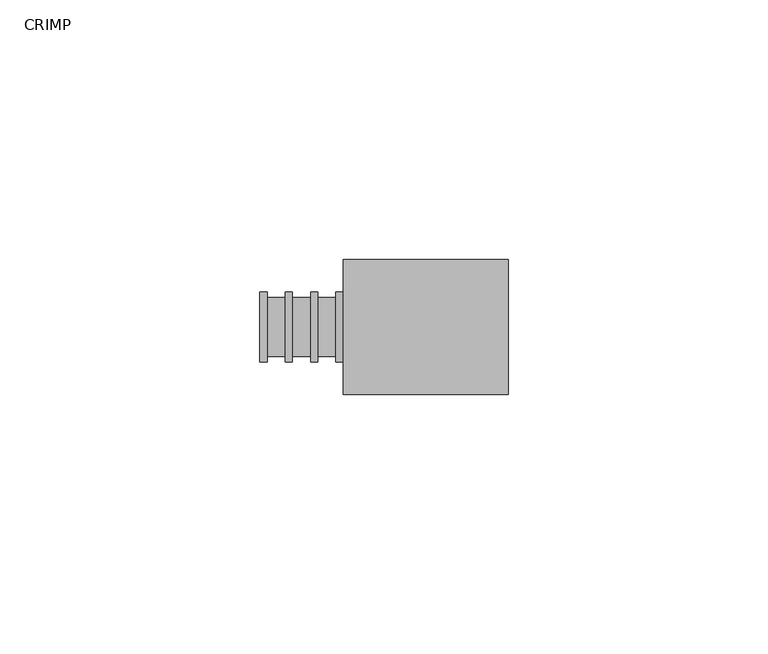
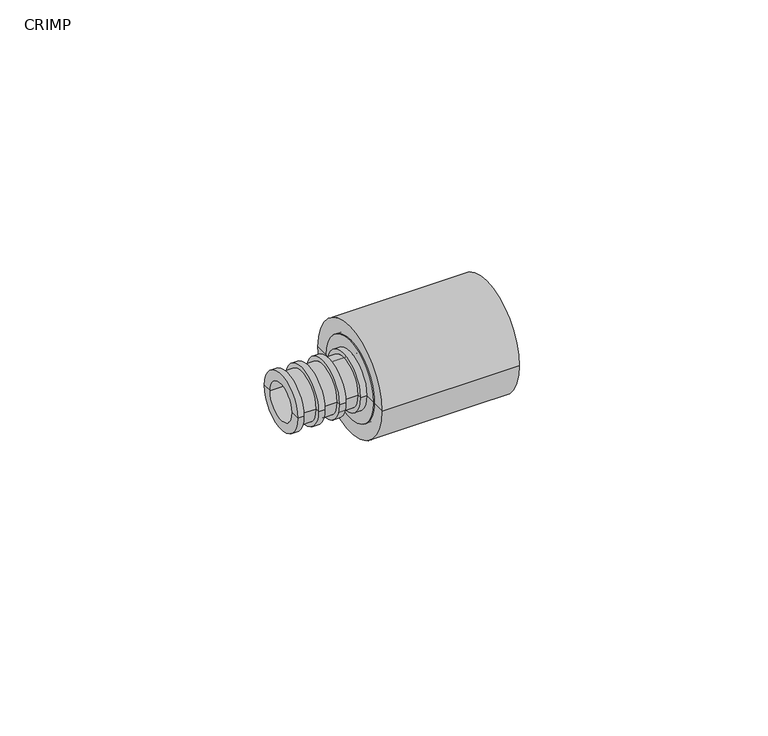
"""IFC4 building model written with IfcOpenShell, lengths in millimetres: valve geometry, Aquatherm - PEX Adapter Crimp : CRIMP."""

from ifc_helpers import new_model, si_unit, frame, origin, place, context, project, spatial, polyline, circle_curve, source, transform, mapped, element, save
from ifc_brep_helpers import plane_surface, cylinder_surface, revolved_surface, advanced_brep


def crimp_57a071e0(model_context):
    return source(origin(), model_context, "Body", "AdvancedBrep", [
        advanced_brep(
        [(3.175, -4.445, 0.0), (3.175, 4.445, 0.0), (-16.002, 4.445, 0.0), (-16.002, -4.445, 0.0), (3.175, -9.525, 0.0), (3.175, 9.525, 0.0), (-16.002, 6.731, 0.0), (-16.002, -6.731, 0.0), (-1.397, -6.731, 0.0), (-1.397, 6.731, 0.0), (0.0, 6.731, 0.0), (0.0, -6.731, 0.0), (-1.397, -5.715, 0.0), (-1.397, 5.715, 0.0), (-4.8683333, -5.715, 0.0), (-4.8683333, 5.715, 0.0), (-4.8683333, -6.731, 0.0), (-4.8683333, 6.731, 0.0), (-6.2653333, -6.731, 0.0), (-6.2653333, 6.731, 0.0), (-6.2653333, -5.715, 0.0), (-6.2653333, 5.715, 0.0), (-9.7366667, -5.715, 0.0), (-9.7366667, 5.715, 0.0), (-9.7366667, -6.731, 0.0), (-9.7366667, 6.731, 0.0), (-11.1336667, -6.731, 0.0), (-11.1336667, 6.731, 0.0), (-11.1336667, -5.715, 0.0), (-11.1336667, 5.715, 0.0), (-14.605, -5.715, 0.0), (-14.605, 5.715, 0.0), (-14.605, -6.731, 0.0), (-14.605, 6.731, 0.0), (0.0, -9.525, 0.0), (0.0, 9.525, 0.0)],
        [
            (0, 1, circle_curve(frame((3.175, 0.0, 0.0), z_axis=(1.0, 0.0, 0.0), x_axis=(0.0, 1.0, 0.0)), 4.445)),
            (1, 2),
            (2, 3, circle_curve(frame((-16.002, 0.0, 0.0), z_axis=(-1.0, 0.0, 0.0), x_axis=(0.0, 1.0, 0.0)), 4.445)),
            (3, 0),
            (1, 0, circle_curve(frame((3.175, 0.0, 0.0), z_axis=(1.0, 0.0, 0.0), x_axis=(0.0, 1.0, 0.0)), 4.445)),
            (3, 2, circle_curve(frame((-16.002, 0.0, 0.0), z_axis=(-1.0, 0.0, 0.0), x_axis=(0.0, 1.0, 0.0)), 4.445)),
            (4, 5, circle_curve(frame((3.175, 0.0, 0.0), z_axis=(1.0, 0.0, 0.0), x_axis=(0.0, 1.0, 0.0)), 9.525)),
            (5, 1),
            (0, 4),
            (5, 4, circle_curve(frame((3.175, 0.0, 0.0), z_axis=(1.0, 0.0, 0.0), x_axis=(0.0, 1.0, 0.0)), 9.525)),
            (2, 6),
            (6, 7, circle_curve(frame((-16.002, 0.0, 0.0), z_axis=(-1.0, 0.0, 0.0), x_axis=(0.0, 1.0, 0.0)), 6.731)),
            (7, 3),
            (7, 6, circle_curve(frame((-16.002, 0.0, 0.0), z_axis=(-1.0, 0.0, 0.0), x_axis=(0.0, 1.0, 0.0)), 6.731)),
            (8, 9, circle_curve(frame((-1.397, 0.0, 0.0), z_axis=(1.0, 0.0, 0.0), x_axis=(0.0, 1.0, 0.0)), 6.731)),
            (9, 10),
            (10, 11, circle_curve(frame((0.0, 0.0, 0.0), z_axis=(-1.0, 0.0, 0.0), x_axis=(0.0, 1.0, 0.0)), 6.731)),
            (11, 8),
            (9, 8, circle_curve(frame((-1.397, 0.0, 0.0), z_axis=(1.0, 0.0, 0.0), x_axis=(0.0, 1.0, 0.0)), 6.731)),
            (11, 10, circle_curve(frame((0.0, 0.0, 0.0), z_axis=(-1.0, 0.0, 0.0), x_axis=(0.0, 1.0, 0.0)), 6.731)),
            (12, 13, circle_curve(frame((-1.397, 0.0, 0.0), z_axis=(1.0, 0.0, 0.0), x_axis=(0.0, 1.0, 0.0)), 5.715)),
            (13, 9),
            (8, 12),
            (13, 12, circle_curve(frame((-1.397, 0.0, 0.0), z_axis=(1.0, 0.0, 0.0), x_axis=(0.0, 1.0, 0.0)), 5.715)),
            (14, 15, circle_curve(frame((-4.8683333, 0.0, 0.0), z_axis=(1.0, 0.0, 0.0), x_axis=(0.0, 1.0, 0.0)), 5.715)),
            (15, 13),
            (12, 14),
            (15, 14, circle_curve(frame((-4.8683333, 0.0, 0.0), z_axis=(1.0, 0.0, 0.0), x_axis=(0.0, 1.0, 0.0)), 5.715)),
            (16, 17, circle_curve(frame((-4.8683333, 0.0, 0.0), z_axis=(1.0, 0.0, 0.0), x_axis=(0.0, 1.0, 0.0)), 6.731)),
            (17, 15),
            (14, 16),
            (17, 16, circle_curve(frame((-4.8683333, 0.0, 0.0), z_axis=(1.0, 0.0, 0.0), x_axis=(0.0, 1.0, 0.0)), 6.731)),
            (18, 19, circle_curve(frame((-6.2653333, 0.0, 0.0), z_axis=(1.0, 0.0, 0.0), x_axis=(0.0, 1.0, 0.0)), 6.731)),
            (19, 17),
            (16, 18),
            (19, 18, circle_curve(frame((-6.2653333, 0.0, 0.0), z_axis=(1.0, 0.0, 0.0), x_axis=(0.0, 1.0, 0.0)), 6.731)),
            (20, 21, circle_curve(frame((-6.2653333, 0.0, 0.0), z_axis=(1.0, 0.0, 0.0), x_axis=(0.0, 1.0, 0.0)), 5.715)),
            (21, 19),
            (18, 20),
            (21, 20, circle_curve(frame((-6.2653333, 0.0, 0.0), z_axis=(1.0, 0.0, 0.0), x_axis=(0.0, 1.0, 0.0)), 5.715)),
            (22, 23, circle_curve(frame((-9.7366667, 0.0, 0.0), z_axis=(1.0, 0.0, 0.0), x_axis=(0.0, 1.0, 0.0)), 5.715)),
            (23, 21),
            (20, 22),
            (23, 22, circle_curve(frame((-9.7366667, 0.0, 0.0), z_axis=(1.0, 0.0, 0.0), x_axis=(0.0, 1.0, 0.0)), 5.715)),
            (24, 25, circle_curve(frame((-9.7366667, 0.0, 0.0), z_axis=(1.0, 0.0, 0.0), x_axis=(0.0, 1.0, 0.0)), 6.731)),
            (25, 23),
            (22, 24),
            (25, 24, circle_curve(frame((-9.7366667, 0.0, 0.0), z_axis=(1.0, 0.0, 0.0), x_axis=(0.0, 1.0, 0.0)), 6.731)),
            (26, 27, circle_curve(frame((-11.1336667, 0.0, 0.0), z_axis=(1.0, 0.0, 0.0), x_axis=(0.0, 1.0, 0.0)), 6.731)),
            (27, 25),
            (24, 26),
            (27, 26, circle_curve(frame((-11.1336667, 0.0, 0.0), z_axis=(1.0, 0.0, 0.0), x_axis=(0.0, 1.0, 0.0)), 6.731)),
            (28, 29, circle_curve(frame((-11.1336667, 0.0, 0.0), z_axis=(1.0, 0.0, 0.0), x_axis=(0.0, 1.0, 0.0)), 5.715)),
            (29, 27),
            (26, 28),
            (29, 28, circle_curve(frame((-11.1336667, 0.0, 0.0), z_axis=(1.0, 0.0, 0.0), x_axis=(0.0, 1.0, 0.0)), 5.715)),
            (30, 31, circle_curve(frame((-14.605, 0.0, 0.0), z_axis=(1.0, 0.0, 0.0), x_axis=(0.0, 1.0, 0.0)), 5.715)),
            (31, 29),
            (28, 30),
            (31, 30, circle_curve(frame((-14.605, 0.0, 0.0), z_axis=(1.0, 0.0, 0.0), x_axis=(0.0, 1.0, 0.0)), 5.715)),
            (32, 33, circle_curve(frame((-14.605, 0.0, 0.0), z_axis=(1.0, 0.0, 0.0), x_axis=(0.0, 1.0, 0.0)), 6.731)),
            (33, 31),
            (30, 32),
            (33, 32, circle_curve(frame((-14.605, 0.0, 0.0), z_axis=(1.0, 0.0, 0.0), x_axis=(0.0, 1.0, 0.0)), 6.731)),
            (6, 33),
            (32, 7),
            (34, 35, circle_curve(frame((0.0, 0.0, 0.0), z_axis=(1.0, 0.0, 0.0), x_axis=(0.0, 1.0, 0.0)), 9.525)),
            (35, 5),
            (4, 34),
            (35, 34, circle_curve(frame((0.0, 0.0, 0.0), z_axis=(1.0, 0.0, 0.0), x_axis=(0.0, 1.0, 0.0)), 9.525)),
            (10, 35),
            (34, 11),
        ],
        [
            revolved_surface(polyline([(-16.002, 4.445, 0.0), (3.1750000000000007, 4.445, 0.0)]), (-27.559, 0.0, 0.0), (-1.0, 0.0, 0.0)),
            plane_surface(frame((3.175, 0.0, 0.0), z_axis=(1.0, 0.0, 0.0), x_axis=(0.0, 1.0, 0.0))),
            plane_surface(frame((-16.002, 0.0, 0.0), z_axis=(-1.0, 0.0, 0.0), x_axis=(0.0, 1.0, 0.0))),
            cylinder_surface(frame((-27.559, 0.0, 0.0), z_axis=(-1.0, 0.0, 0.0), x_axis=(0.0, 1.0, 0.0)), 6.731),
            plane_surface(frame((-1.397, 0.0, 0.0), z_axis=(-1.0, 0.0, 0.0), x_axis=(0.0, 1.0, 0.0))),
            cylinder_surface(frame((-27.559, 0.0, 0.0), z_axis=(-1.0, 0.0, 0.0), x_axis=(0.0, 1.0, 0.0)), 5.715),
            plane_surface(frame((-4.8683333, 0.0, 0.0), z_axis=(1.0, 0.0, 0.0), x_axis=(0.0, 1.0, 0.0))),
            plane_surface(frame((-6.2653333, 0.0, 0.0), z_axis=(-1.0, 0.0, 0.0), x_axis=(0.0, 1.0, 0.0))),
            plane_surface(frame((-9.7366667, 0.0, 0.0), z_axis=(1.0, 0.0, 0.0), x_axis=(0.0, 1.0, 0.0))),
            plane_surface(frame((-11.1336667, 0.0, 0.0), z_axis=(-1.0, 0.0, 0.0), x_axis=(0.0, 1.0, 0.0))),
            plane_surface(frame((-14.605, 0.0, 0.0), z_axis=(1.0, 0.0, 0.0), x_axis=(0.0, 1.0, 0.0))),
            cylinder_surface(frame((-27.559, 0.0, 0.0), z_axis=(-1.0, 0.0, 0.0), x_axis=(0.0, 1.0, 0.0)), 9.525),
            plane_surface(frame((0.0, 0.0, 0.0), z_axis=(-1.0, 0.0, 0.0), x_axis=(0.0, 1.0, 0.0))),
        ],
        [
            (0, [[1, 2, 3, 4]]),
            (0, [[5, -4, 6, -2]]),
            (1, [[7, 8, -1, 9]]),
            (1, [[10, -9, -5, -8]]),
            (2, [[-3, 11, 12, 13]]),
            (2, [[-6, -13, 14, -11]]),
            (3, [[15, 16, 17, 18]]),
            (3, [[19, -18, 20, -16]]),
            (4, [[21, 22, -15, 23]]),
            (4, [[24, -23, -19, -22]]),
            (5, [[25, 26, -21, 27]]),
            (5, [[28, -27, -24, -26]]),
            (6, [[29, 30, -25, 31]]),
            (6, [[32, -31, -28, -30]]),
            (3, [[33, 34, -29, 35]]),
            (3, [[36, -35, -32, -34]]),
            (7, [[37, 38, -33, 39]]),
            (7, [[40, -39, -36, -38]]),
            (5, [[41, 42, -37, 43]]),
            (5, [[44, -43, -40, -42]]),
            (8, [[45, 46, -41, 47]]),
            (8, [[48, -47, -44, -46]]),
            (3, [[49, 50, -45, 51]]),
            (3, [[52, -51, -48, -50]]),
            (9, [[53, 54, -49, 55]]),
            (9, [[56, -55, -52, -54]]),
            (5, [[57, 58, -53, 59]]),
            (5, [[60, -59, -56, -58]]),
            (10, [[61, 62, -57, 63]]),
            (10, [[64, -63, -60, -62]]),
            (3, [[-12, 65, -61, 66]]),
            (3, [[-14, -66, -64, -65]]),
            (11, [[67, 68, -7, 69]]),
            (11, [[70, -69, -10, -68]]),
            (12, [[-17, 71, -67, 72]]),
            (12, [[-20, -72, -70, -71]]),
        ],
    ),
        advanced_brep(
        [(0.0, -12.954, 0.0), (0.0, 12.954, 0.0), (31.75, 12.954, 0.0), (31.75, -12.954, 0.0), (0.0, -9.525, 0.0), (0.0, 9.525, 0.0), (3.175, -9.525, 0.0), (3.175, 9.525, 0.0), (3.175, -4.445, 0.0), (3.175, 4.445, 0.0), (31.75, -9.525, 0.0), (31.75, 9.525, 0.0), (15.748, 9.525, 0.0), (15.748, -9.525, 0.0), (15.748, -4.445, 0.0), (15.748, 4.445, 0.0)],
        [
            (0, 1, circle_curve(frame((0.0, 0.0, 0.0), z_axis=(1.0, 0.0, 0.0), x_axis=(0.0, 1.0, 0.0)), 12.954)),
            (1, 2),
            (2, 3, circle_curve(frame((31.75, 0.0, 0.0), z_axis=(-1.0, 0.0, 0.0), x_axis=(0.0, 1.0, 0.0)), 12.954)),
            (3, 0),
            (1, 0, circle_curve(frame((0.0, 0.0, 0.0), z_axis=(1.0, 0.0, 0.0), x_axis=(0.0, 1.0, 0.0)), 12.954)),
            (3, 2, circle_curve(frame((31.75, 0.0, 0.0), z_axis=(-1.0, 0.0, 0.0), x_axis=(0.0, 1.0, 0.0)), 12.954)),
            (4, 5, circle_curve(frame((0.0, 0.0, 0.0), z_axis=(1.0, 0.0, 0.0), x_axis=(0.0, 1.0, 0.0)), 9.525)),
            (5, 1),
            (0, 4),
            (5, 4, circle_curve(frame((0.0, 0.0, 0.0), z_axis=(1.0, 0.0, 0.0), x_axis=(0.0, 1.0, 0.0)), 9.525)),
            (6, 7, circle_curve(frame((3.175, 0.0, 0.0), z_axis=(1.0, 0.0, 0.0), x_axis=(0.0, 1.0, 0.0)), 9.525)),
            (7, 5),
            (4, 6),
            (7, 6, circle_curve(frame((3.175, 0.0, 0.0), z_axis=(1.0, 0.0, 0.0), x_axis=(0.0, 1.0, 0.0)), 9.525)),
            (8, 9, circle_curve(frame((3.175, 0.0, 0.0), z_axis=(1.0, 0.0, 0.0), x_axis=(0.0, 1.0, 0.0)), 4.445)),
            (9, 7),
            (6, 8),
            (9, 8, circle_curve(frame((3.175, 0.0, 0.0), z_axis=(1.0, 0.0, 0.0), x_axis=(0.0, 1.0, 0.0)), 4.445)),
            (10, 11, circle_curve(frame((31.75, 0.0, 0.0), z_axis=(1.0, 0.0, 0.0), x_axis=(0.0, 1.0, 0.0)), 9.525)),
            (11, 12),
            (12, 13, circle_curve(frame((15.748, 0.0, 0.0), z_axis=(-1.0, 0.0, 0.0), x_axis=(0.0, 1.0, 0.0)), 9.525)),
            (13, 10),
            (11, 10, circle_curve(frame((31.75, 0.0, 0.0), z_axis=(1.0, 0.0, 0.0), x_axis=(0.0, 1.0, 0.0)), 9.525)),
            (13, 12, circle_curve(frame((15.748, 0.0, 0.0), z_axis=(-1.0, 0.0, 0.0), x_axis=(0.0, 1.0, 0.0)), 9.525)),
            (2, 11),
            (10, 3),
            (14, 15, circle_curve(frame((15.748, 0.0, 0.0), z_axis=(1.0, 0.0, 0.0), x_axis=(0.0, 1.0, 0.0)), 4.445)),
            (15, 9),
            (8, 14),
            (15, 14, circle_curve(frame((15.748, 0.0, 0.0), z_axis=(1.0, 0.0, 0.0), x_axis=(0.0, 1.0, 0.0)), 4.445)),
            (12, 15),
            (14, 13),
        ],
        [
            cylinder_surface(frame((-41.402, 0.0, 0.0), z_axis=(-1.0, 0.0, 0.0), x_axis=(0.0, 1.0, 0.0)), 12.954),
            plane_surface(frame((0.0, 0.0, 0.0), z_axis=(-1.0, 0.0, 0.0), x_axis=(0.0, 1.0, 0.0))),
            revolved_surface(polyline([(0.0, 9.525, 0.0), (3.174999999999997, 9.525, 0.0)]), (-41.402, 0.0, 0.0), (-1.0, 0.0, 0.0)),
            plane_surface(frame((3.175, 0.0, 0.0), z_axis=(-1.0, 0.0, 0.0), x_axis=(0.0, 1.0, 0.0))),
            revolved_surface(polyline([(15.747999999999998, 9.525, 0.0), (31.75, 9.525, 0.0)]), (-41.402, 0.0, 0.0), (-1.0, 0.0, 0.0)),
            plane_surface(frame((31.75, 0.0, 0.0), z_axis=(1.0, 0.0, 0.0), x_axis=(0.0, 1.0, 0.0))),
            revolved_surface(polyline([(3.174999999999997, 4.445, 0.0), (15.747999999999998, 4.445, 0.0)]), (-41.402, 0.0, 0.0), (-1.0, 0.0, 0.0)),
            plane_surface(frame((15.748, 0.0, 0.0), z_axis=(1.0, 0.0, 0.0), x_axis=(0.0, 1.0, 0.0))),
        ],
        [
            (0, [[1, 2, 3, 4]]),
            (0, [[5, -4, 6, -2]]),
            (1, [[7, 8, -1, 9]]),
            (1, [[10, -9, -5, -8]]),
            (2, [[11, 12, -7, 13]]),
            (2, [[14, -13, -10, -12]]),
            (3, [[15, 16, -11, 17]]),
            (3, [[18, -17, -14, -16]]),
            (4, [[19, 20, 21, 22]]),
            (4, [[23, -22, 24, -20]]),
            (5, [[-3, 25, -19, 26]]),
            (5, [[-6, -26, -23, -25]]),
            (6, [[27, 28, -15, 29]]),
            (6, [[30, -29, -18, -28]]),
            (7, [[-21, 31, -27, 32]]),
            (7, [[-24, -32, -30, -31]]),
        ],
    ),
    ])


if __name__ == "__main__":
    model = new_model("IFC4")
    model_context = context("Model", 3, world=origin())
    ifc_project = project(units=[si_unit("LENGTHUNIT", "METRE", prefix="MILLI")], contexts=[model_context])
    site = spatial("IfcSite", under=ifc_project)
    building = spatial("IfcBuilding", under=site)
    placement = place(None, origin())
    crimp_shape = crimp_57a071e0(model_context)
    element("IfcValve", 1, ObjectType="Aquatherm - PEX Adapter Crimp : CRIMP", at=placement, inside=building, context=model_context, shape_type="MappedRepresentation", body=[
        mapped(crimp_shape, transform((0.0, 0.0, 0.0), x_axis=(1.0, 0.0, 0.0), y_axis=(0.0, 1.0, 0.0), z_axis=(0.0, 0.0, 1.0))),
    ])
    save(model, "model.ifc")
